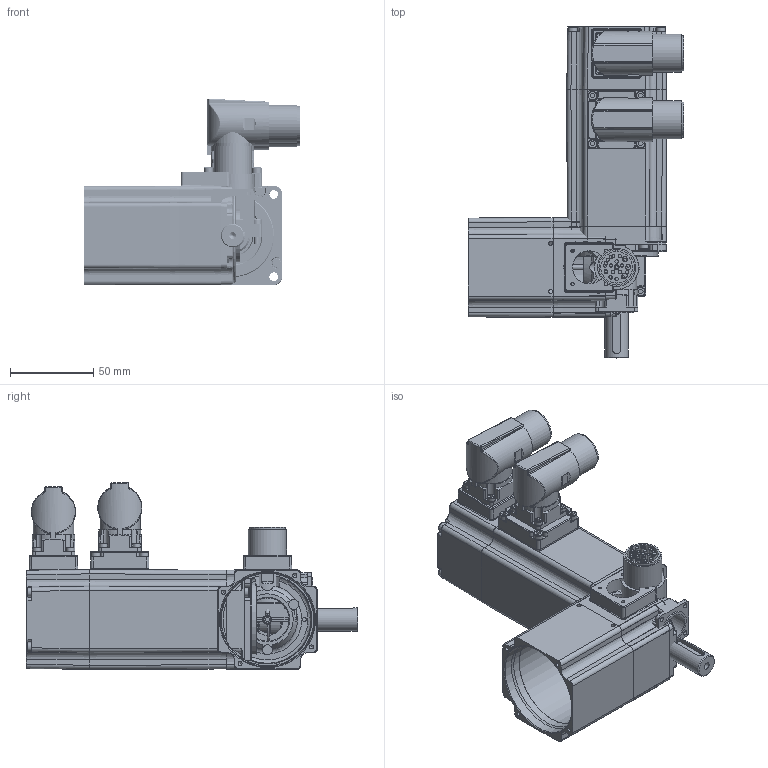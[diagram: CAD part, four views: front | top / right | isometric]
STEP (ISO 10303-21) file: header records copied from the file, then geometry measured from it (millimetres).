
FILE_DESCRIPTION( ( 'Unknown' ), '1' );
FILE_NAME( 'K:/121010-AL Files 3D Step con chiavetta/Q0A932_1,3.stp', 'Unknown', ( 'Unknown' ), ( 'Unknown' ), 'PSStep 14.0', 'Unknown', ' ' );
FILE_SCHEMA( ( 'AUTOMOTIVE_DESIGN { 1 0 10303 214 1 1 1 1 }' ) );
Length unit declared in the file: millimetre
Products named in the file (50): BLOCCHETTO x CN_(N45204); Assem1; N45204; N35210; Vite a brugola testa cil 8,8 -  M 2,5 x 4; Vite a brugola testa cil 8,8 -  M  3 x 12; cavo di terra sez1,5_M3_(N13A15) x CN; N33040; Anello-elastico-chiuso  32; A-Ela  15; LI-PIA   5x5 x 25; N11035; CUSC_15_32_9_6002_ZZ; CUSC_10_26_8_6000_ZZ; anello comp 26; anello di rasamento 19_26_0,3; Vite a brugola testa cil 8,8 -  M 2,5 x 8; Vite a brugola testa cil 8,8 -  M 2,5 x 8-oa0; Vite a brugola testa cil 8,8 -  M 2,5 x 8-oa1; Vite a brugola testa cil 8,8 -  M 2,5 x 8-oa2; Vite a brugola testa cil 8,8 -  M 2,5 x 8-oa3; Vite a brugola testa cil 8,8 -  M 2,5 x 8-oa4; Vite a brugola testa cil 8,8 -  M 2,5 x 8-oa5; Vite a brugola testa cil 8,8 -  M 2,5 x 8-oa6; Vite a brugola testa cil 8,8 -  M  3 x 40; Vite a brugola testa cil 8,8 -  M  3 x 40-oa7; Vite a brugola testa cil 8,8 -  M  3 x 40-oa8; Vite a brugola testa cil 8,8 -  M  3 x 40-oa9; Vite a brugola testa cil 8,8 -  M  3 x 18; Vite a brugola testa cil 8,8 -  M  3 x 18-oa10; Vite a brugola testa cil 8,8 -  M  3 x 18-oa11; Vite a brugola testa cil 8,8 -  M  3 x 18-oa12; Anello OR 1,78 D47,37-2187-oa13; Anello OR 1,78 D47,37-2187-oa14; Anello OR 1,78 D25,12-2100-oa15; CN M23 PAN-POT BEDC 110 4+4 pin 90°o SpTcR; CN M23 PAN-SEG AEDC 139 17 pin 90°o SpTcR; n01118; N09027
Bounding box: 129.6 x 199.89 x 112.46 mm (x, y, z)
Volume: 512298.7 mm3; surface area: 280696 mm2
Topology: 107 solids, 111 shells, 3827 faces, 9192 edges, 5819 vertices
Faces by surface type: plane 1777, cylinder 1028, torus 343, cone 297, bspline 290, extrusion 62, sphere 30
Full cylindrical faces by diameter (mm): 1.7 x4, 2 x50, 2.013 x15, 2.459 x26, 2.5 x39, 2.7 x16, 3 x33, 3.2 x3, 3.5 x40, 4.2 x2, 4.7 x19, 5.5 x25, 6 x4, 8 x2, 10 x4, 14 x2, 14.3 x2, 15 x6, 15.12 x8, 16 x4, 17 x4, 19 x2, 19.2 x2, 19.8 x4, 19.81 x2, 20 x9, 20.44 x8, 20.88 x8, 21.3 x12, 21.51 x6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
Entity records: 69736 total; most frequent: CARTESIAN_POINT 19048, DIRECTION 8113, ORIENTED_EDGE 7576, EDGE_CURVE 3788, AXIS2_PLACEMENT_3D 3030, VERTEX_POINT 2603, EDGE_LOOP 2350, VECTOR 2053
